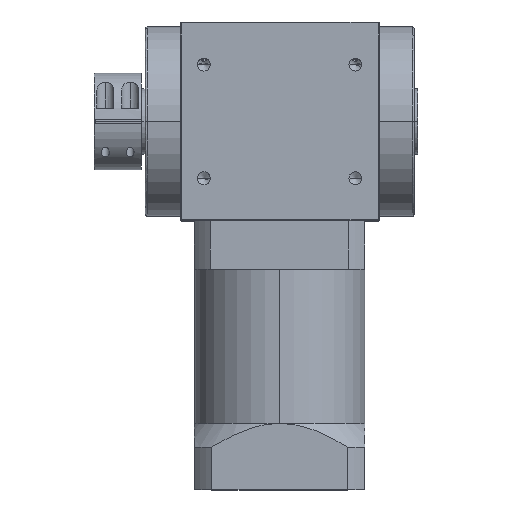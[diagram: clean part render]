
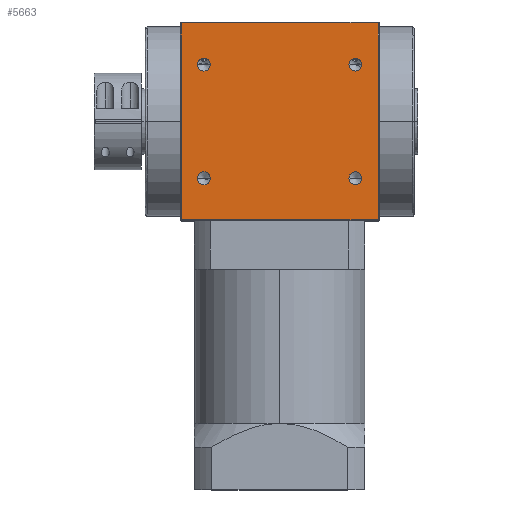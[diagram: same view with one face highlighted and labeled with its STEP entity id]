
A CAD part, top view. The second image highlights one B-rep face of the part: STEP entity #5663.
In plain terms, the highlighted planar face has unit normal (0, 0, 1).
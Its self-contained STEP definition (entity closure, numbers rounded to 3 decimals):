
#197 = FACE_BOUND ( 'NONE', #5336, .T. ) ;
#206 = VERTEX_POINT ( 'NONE', #3299 ) ;
#370 = VERTEX_POINT ( 'NONE', #4550 ) ;
#405 = EDGE_CURVE ( 'NONE', #206, #1356, #9782, .T. ) ;
#421 = EDGE_CURVE ( 'NONE', #9661, #3036, #3267, .T. ) ;
#441 = EDGE_CURVE ( 'NONE', #1211, #3219, #2486, .T. ) ;
#490 = EDGE_CURVE ( 'NONE', #3219, #370, #8748, .T. ) ;
#502 = EDGE_CURVE ( 'NONE', #370, #4671, #3419, .T. ) ;
#550 = EDGE_CURVE ( 'NONE', #5760, #2818, #10807, .T. ) ;
#568 = EDGE_CURVE ( 'NONE', #5577, #7231, #6786, .T. ) ;
#748 = FACE_BOUND ( 'NONE', #8535, .T. ) ;
#802 = ORIENTED_EDGE ( 'NONE', *, *, #2593, .F. ) ;
#804 = EDGE_CURVE ( 'NONE', #1211, #4671, #1283, .T. ) ;
#1044 = ORIENTED_EDGE ( 'NONE', *, *, #2635, .F. ) ;
#1174 = ORIENTED_EDGE ( 'NONE', *, *, #3335, .F. ) ;
#1211 = VERTEX_POINT ( 'NONE', #10150 ) ;
#1283 = LINE ( 'NONE', #10109, #7250 ) ;
#1356 = VERTEX_POINT ( 'NONE', #8436 ) ;
#1412 = CIRCLE ( 'NONE', #2735, 3.4 ) ;
#1890 = AXIS2_PLACEMENT_3D ( 'NONE', #5307, #5308, #5329 ) ;
#1979 = FACE_OUTER_BOUND ( 'NONE', #5745, .T. ) ;
#2486 = LINE ( 'NONE', #5340, #8199 ) ;
#2593 = EDGE_CURVE ( 'NONE', #1356, #206, #3702, .T. ) ;
#2635 = EDGE_CURVE ( 'NONE', #3036, #9661, #8198, .T. ) ;
#2735 = AXIS2_PLACEMENT_3D ( 'NONE', #6027, #6016, #6002 ) ;
#2818 = VERTEX_POINT ( 'NONE', #9501 ) ;
#2831 = CIRCLE ( 'NONE', #3946, 3.4 ) ;
#3036 = VERTEX_POINT ( 'NONE', #8430 ) ;
#3084 = EDGE_CURVE ( 'NONE', #2818, #5760, #2831, .T. ) ;
#3179 = ORIENTED_EDGE ( 'NONE', *, *, #421, .F. ) ;
#3219 = VERTEX_POINT ( 'NONE', #6797 ) ;
#3267 = CIRCLE ( 'NONE', #1890, 3.4 ) ;
#3299 = CARTESIAN_POINT ( 'NONE',  ( 43.4, -30., 52.5 ) ) ;
#3335 = EDGE_CURVE ( 'NONE', #7231, #5577, #1412, .T. ) ;
#3370 = FACE_BOUND ( 'NONE', #6157, .T. ) ;
#3419 = LINE ( 'NONE', #5658, #7205 ) ;
#3431 = VECTOR ( 'NONE', #6404, 1000. ) ;
#3702 = CIRCLE ( 'NONE', #5349, 3.4 ) ;
#3946 = AXIS2_PLACEMENT_3D ( 'NONE', #7855, #7820, #7817 ) ;
#4168 = ORIENTED_EDGE ( 'NONE', *, *, #3084, .F. ) ;
#4550 = CARTESIAN_POINT ( 'NONE',  ( -52., -52., 52.5 ) ) ;
#4595 = ORIENTED_EDGE ( 'NONE', *, *, #502, .F. ) ;
#4671 = VERTEX_POINT ( 'NONE', #6396 ) ;
#4979 = CARTESIAN_POINT ( 'NONE',  ( -43.4, 30., 52.5 ) ) ;
#5022 = CARTESIAN_POINT ( 'NONE',  ( 43.4, 30., 52.5 ) ) ;
#5073 = ORIENTED_EDGE ( 'NONE', *, *, #490, .F. ) ;
#5222 = AXIS2_PLACEMENT_3D ( 'NONE', #10072, #10057, #10045 ) ;
#5235 = CARTESIAN_POINT ( 'NONE',  ( 40., -30., 52.5 ) ) ;
#5251 = DIRECTION ( 'NONE',  ( 0., 0., 1. ) ) ;
#5266 = DIRECTION ( 'NONE',  ( 1., 0., 0. ) ) ;
#5307 = CARTESIAN_POINT ( 'NONE',  ( -40., -30., 52.5 ) ) ;
#5308 = DIRECTION ( 'NONE',  ( 0., 0., 1. ) ) ;
#5329 = DIRECTION ( 'NONE',  ( 1., 0., 0. ) ) ;
#5336 = EDGE_LOOP ( 'NONE', ( #3179, #1044 ) ) ;
#5340 = CARTESIAN_POINT ( 'NONE',  ( 52., -52., 52.5 ) ) ;
#5349 = AXIS2_PLACEMENT_3D ( 'NONE', #10260, #10258, #10238 ) ;
#5395 = DIRECTION ( 'NONE',  ( 0., -1., 0. ) ) ;
#5577 = VERTEX_POINT ( 'NONE', #6551 ) ;
#5619 = CARTESIAN_POINT ( 'NONE',  ( 52., -52., 52.5 ) ) ;
#5658 = CARTESIAN_POINT ( 'NONE',  ( -52., -52., 52.5 ) ) ;
#5663 = ADVANCED_FACE ( 'NONE', ( #1979, #748, #9745, #197, #3370 ), #5957, .F. ) ;
#5709 = DIRECTION ( 'NONE',  ( 0., 1., 0. ) ) ;
#5745 = EDGE_LOOP ( 'NONE', ( #4595, #5073, #9354, #10344 ) ) ;
#5760 = VERTEX_POINT ( 'NONE', #5022 ) ;
#5801 = DIRECTION ( 'NONE',  ( -1., 0., 0. ) ) ;
#5802 = DIRECTION ( 'NONE',  ( 0., 0., -1. ) ) ;
#5810 = CARTESIAN_POINT ( 'NONE',  ( 52., -52., 52.5 ) ) ;
#5957 = PLANE ( 'NONE',  #6230 ) ;
#6002 = DIRECTION ( 'NONE',  ( 1., 0., 0. ) ) ;
#6016 = DIRECTION ( 'NONE',  ( 0., 0., 1. ) ) ;
#6027 = CARTESIAN_POINT ( 'NONE',  ( -40., 30., 52.5 ) ) ;
#6157 = EDGE_LOOP ( 'NONE', ( #8063, #802 ) ) ;
#6230 = AXIS2_PLACEMENT_3D ( 'NONE', #5810, #5802, #5801 ) ;
#6396 = CARTESIAN_POINT ( 'NONE',  ( -52., 52., 52.5 ) ) ;
#6404 = DIRECTION ( 'NONE',  ( -1., 0., 0. ) ) ;
#6521 = CARTESIAN_POINT ( 'NONE',  ( 40., 30., 52.5 ) ) ;
#6530 = DIRECTION ( 'NONE',  ( 0., 0., 1. ) ) ;
#6545 = DIRECTION ( 'NONE',  ( 1., 0., 0. ) ) ;
#6551 = CARTESIAN_POINT ( 'NONE',  ( -36.6, 30., 52.5 ) ) ;
#6769 = ORIENTED_EDGE ( 'NONE', *, *, #550, .F. ) ;
#6786 = CIRCLE ( 'NONE', #7465, 3.4 ) ;
#6797 = CARTESIAN_POINT ( 'NONE',  ( 52., -52., 52.5 ) ) ;
#7057 = CARTESIAN_POINT ( 'NONE',  ( -40., 30., 52.5 ) ) ;
#7059 = DIRECTION ( 'NONE',  ( 0., 0., 1. ) ) ;
#7079 = DIRECTION ( 'NONE',  ( 1., 0., 0. ) ) ;
#7205 = VECTOR ( 'NONE', #5709, 1000. ) ;
#7231 = VERTEX_POINT ( 'NONE', #4979 ) ;
#7250 = VECTOR ( 'NONE', #10151, 1000. ) ;
#7465 = AXIS2_PLACEMENT_3D ( 'NONE', #7057, #7059, #7079 ) ;
#7592 = AXIS2_PLACEMENT_3D ( 'NONE', #6521, #6530, #6545 ) ;
#7817 = DIRECTION ( 'NONE',  ( 1., 0., 0. ) ) ;
#7820 = DIRECTION ( 'NONE',  ( 0., 0., 1. ) ) ;
#7855 = CARTESIAN_POINT ( 'NONE',  ( 40., 30., 52.5 ) ) ;
#8063 = ORIENTED_EDGE ( 'NONE', *, *, #405, .F. ) ;
#8198 = CIRCLE ( 'NONE', #5222, 3.4 ) ;
#8199 = VECTOR ( 'NONE', #5395, 1000. ) ;
#8261 = AXIS2_PLACEMENT_3D ( 'NONE', #5235, #5251, #5266 ) ;
#8314 = EDGE_LOOP ( 'NONE', ( #6769, #4168 ) ) ;
#8430 = CARTESIAN_POINT ( 'NONE',  ( -43.4, -30., 52.5 ) ) ;
#8436 = CARTESIAN_POINT ( 'NONE',  ( 36.6, -30., 52.5 ) ) ;
#8452 = ORIENTED_EDGE ( 'NONE', *, *, #568, .F. ) ;
#8535 = EDGE_LOOP ( 'NONE', ( #8452, #1174 ) ) ;
#8748 = LINE ( 'NONE', #5619, #3431 ) ;
#9354 = ORIENTED_EDGE ( 'NONE', *, *, #441, .F. ) ;
#9501 = CARTESIAN_POINT ( 'NONE',  ( 36.6, 30., 52.5 ) ) ;
#9661 = VERTEX_POINT ( 'NONE', #9815 ) ;
#9745 = FACE_BOUND ( 'NONE', #8314, .T. ) ;
#9782 = CIRCLE ( 'NONE', #8261, 3.4 ) ;
#9815 = CARTESIAN_POINT ( 'NONE',  ( -36.6, -30., 52.5 ) ) ;
#10045 = DIRECTION ( 'NONE',  ( 1., 0., 0. ) ) ;
#10057 = DIRECTION ( 'NONE',  ( 0., 0., 1. ) ) ;
#10072 = CARTESIAN_POINT ( 'NONE',  ( -40., -30., 52.5 ) ) ;
#10109 = CARTESIAN_POINT ( 'NONE',  ( 52., 52., 52.5 ) ) ;
#10150 = CARTESIAN_POINT ( 'NONE',  ( 52., 52., 52.5 ) ) ;
#10151 = DIRECTION ( 'NONE',  ( -1., 0., 0. ) ) ;
#10238 = DIRECTION ( 'NONE',  ( 1., 0., 0. ) ) ;
#10258 = DIRECTION ( 'NONE',  ( 0., 0., 1. ) ) ;
#10260 = CARTESIAN_POINT ( 'NONE',  ( 40., -30., 52.5 ) ) ;
#10344 = ORIENTED_EDGE ( 'NONE', *, *, #804, .T. ) ;
#10807 = CIRCLE ( 'NONE', #7592, 3.4 ) ;
